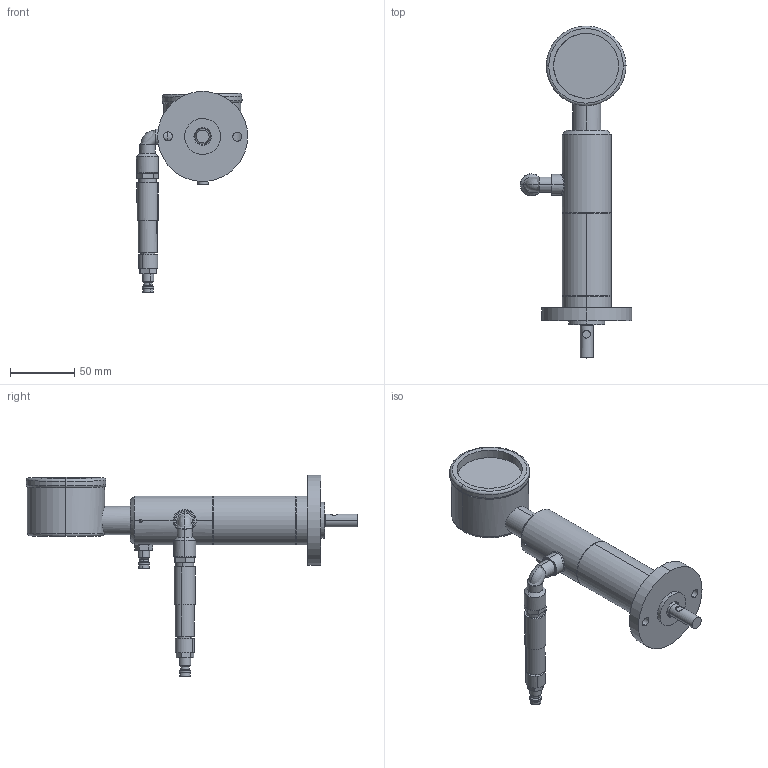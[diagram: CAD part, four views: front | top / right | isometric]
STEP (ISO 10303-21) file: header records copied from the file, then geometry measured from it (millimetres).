
FILE_DESCRIPTION (( 'STEP AP214' ), '1' );
FILE_NAME ('PMR11TGA.STEP', '2019-03-19T09:50:33', ( '' ), ( '' ), 'SwSTEP 2.0', 'SolidWorks 2018', '' );
FILE_SCHEMA (( 'AUTOMOTIVE_DESIGN' ));
Length unit declared in the file: millimetre
Products named in the file (13): Kopie von Distanzring PLR 11^PMR11TGA; Kopie von Deckel PLR 11^PMR11TGA; Kopie von Stator PLR 11^PMR11TGA; Kopie von Rotor PLR 11^PMR11TGA; Kopie von Motorblock PLR 11^PMR11TGA; PMR11TGA; Tacho; Flansch Serie PMR; Rändelschraube GA; Schnellkupplung; Ventil; Rändelschraube; Winkel
Assembly tree (13 placements, depth 3):
  PMR11TGA
    Kopie von Motorblock PLR 11^PMR11TGA
    Kopie von Rotor PLR 11^PMR11TGA
    Kopie von Stator PLR 11^PMR11TGA
    Kopie von Deckel PLR 11^PMR11TGA
    Kopie von Distanzring PLR 11^PMR11TGA
    Winkel
    Rändelschraube GA
      Rändelschraube
      Ventil
      Schnellkupplung
    Schnellkupplung
    Flansch Serie PMR
    Tacho
Bounding box: 86.58 x 258 x 156.33 mm (x, y, z)
Volume: 257977.1 mm3; surface area: 101941.3 mm2
Topology: 12 solids, 12 shells, 297 faces, 621 edges, 390 vertices
Faces by surface type: cylinder 152, plane 93, cone 32, torus 17, bspline 3
Entity records: 8901 total; most frequent: CARTESIAN_POINT 2212, DIRECTION 1390, ORIENTED_EDGE 1098, AXIS2_PLACEMENT_3D 594, EDGE_CURVE 549, VERTEX_POINT 348, EDGE_LOOP 325, CIRCLE 314
